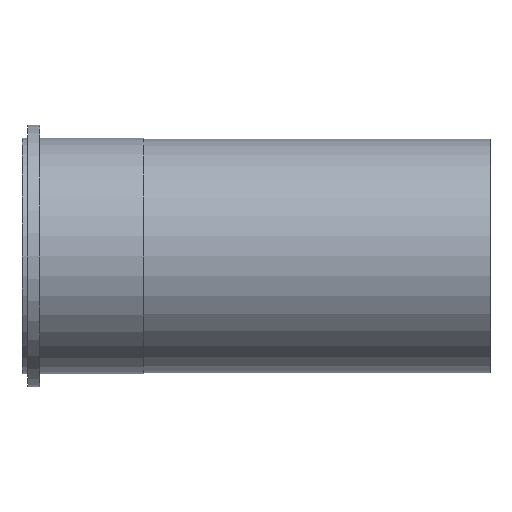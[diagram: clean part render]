
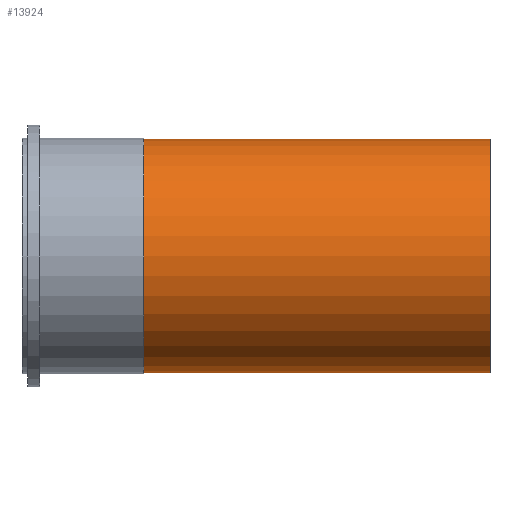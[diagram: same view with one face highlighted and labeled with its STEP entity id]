
A CAD part, front view. The second image highlights one B-rep face of the part: STEP entity #13924.
In plain terms, the highlighted cylindrical face has radius 62.484 mm (diameter 124.968 mm), a full revolution.
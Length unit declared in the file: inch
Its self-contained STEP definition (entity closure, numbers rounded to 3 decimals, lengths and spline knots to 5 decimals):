
#13893=CARTESIAN_POINT('',(2.56,2.46,0.0));
#13894=VERTEX_POINT('',#13893);
#13895=CARTESIAN_POINT('',(2.56,0.0,0.0));
#13896=DIRECTION('',(1.0,0.0,0.0));
#13897=DIRECTION('',(0.0,1.0,0.0));
#13898=AXIS2_PLACEMENT_3D('',#13895,#13896,#13897);
#13899=CIRCLE('',#13898,2.46);
#13900=EDGE_CURVE('',#13894,#13894,#13899,.T.);
#13905=CARTESIAN_POINT('',(6.20126,0.0,0.0));
#13906=DIRECTION('',(1.0,0.0,0.0));
#13907=DIRECTION('',(0.0,1.0,0.0));
#13908=AXIS2_PLACEMENT_3D('',#13905,#13906,#13907);
#13909=CYLINDRICAL_SURFACE('',#13908,2.46);
#13910=CARTESIAN_POINT('',(9.84252,2.46,0.0));
#13911=VERTEX_POINT('',#13910);
#13912=CARTESIAN_POINT('',(9.84252,0.0,0.0));
#13913=DIRECTION('',(1.0,0.0,0.0));
#13914=DIRECTION('',(0.0,1.0,0.0));
#13915=AXIS2_PLACEMENT_3D('',#13912,#13913,#13914);
#13916=CIRCLE('',#13915,2.46);
#13917=EDGE_CURVE('',#13911,#13911,#13916,.T.);
#13918=ORIENTED_EDGE('',*,*,#13917,.F.);
#13919=EDGE_LOOP('',(#13918));
#13920=FACE_OUTER_BOUND('',#13919,.T.);
#13921=ORIENTED_EDGE('',*,*,#13900,.T.);
#13922=EDGE_LOOP('',(#13921));
#13923=FACE_BOUND('',#13922,.T.);
#13924=ADVANCED_FACE('',(#13920,#13923),#13909,.T.);
